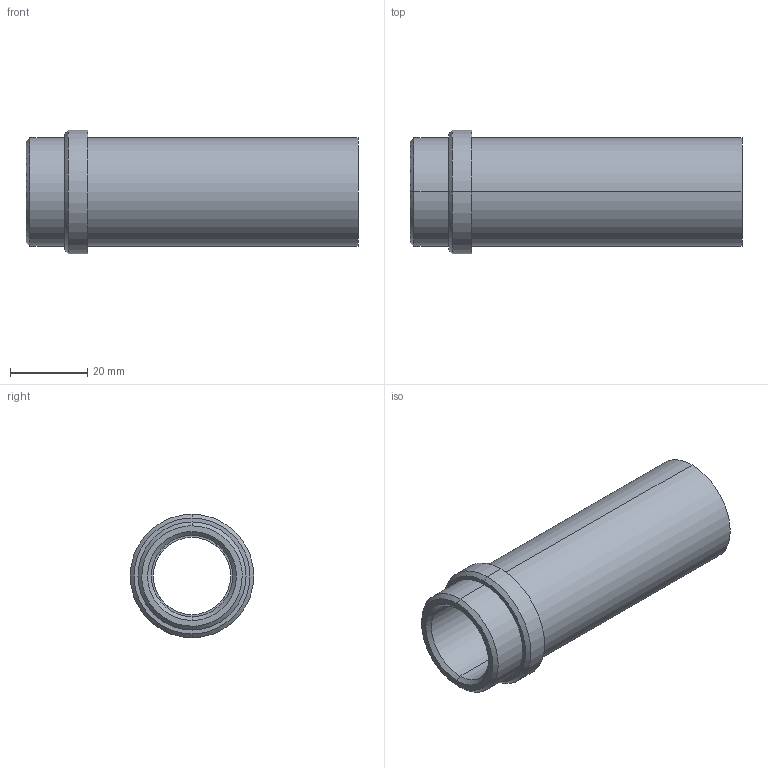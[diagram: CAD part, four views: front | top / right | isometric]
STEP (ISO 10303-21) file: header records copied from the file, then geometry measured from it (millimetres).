
FILE_DESCRIPTION(('CATIA V5 STEP Exchange'),'2;1');
FILE_NAME('C:\Users\Utente\Desktop\IO LAVORO\3D X SITO CF\X SITO\PLASTICA\358\358-20x86.stp','2021-04-08T12:42:12+00:00',('none'),('none'),'CATIA Version 5 Release 20 GA (IN-10)','CATIA V5 STEP AP203','none');
FILE_SCHEMA(('CONFIG_CONTROL_DESIGN'));
Length unit declared in the file: millimetre
Products named in the file (1): 358-20X86
Bounding box: 86 x 32 x 32 mm (x, y, z)
Volume: 25404.2 mm3; surface area: 13966.1 mm2
Topology: 1 solids, 1 shells, 23 faces, 74 edges, 56 vertices
Faces by surface type: cylinder 10, cone 6, plane 5, torus 2
Entity records: 1066 total; most frequent: CARTESIAN_POINT 378, ORIENTED_EDGE 148, DIRECTION 104, EDGE_CURVE 74, AXIS2_PLACEMENT_3D 66, VERTEX_POINT 56, CIRCLE 42, EDGE_LOOP 28
